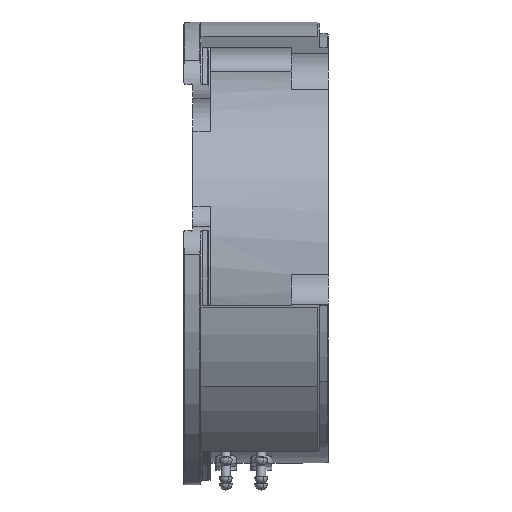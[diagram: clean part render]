
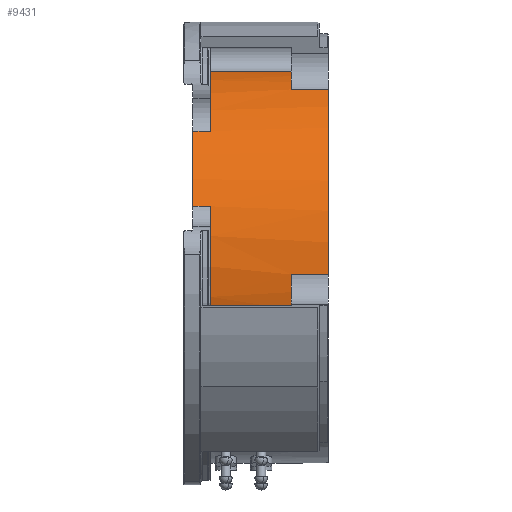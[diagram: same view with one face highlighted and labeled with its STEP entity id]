
A CAD part, left-side view. The second image highlights one B-rep face of the part: STEP entity #9431.
In plain terms, the highlighted cylindrical face has radius 21.717 mm (diameter 43.434 mm), a partial arc.
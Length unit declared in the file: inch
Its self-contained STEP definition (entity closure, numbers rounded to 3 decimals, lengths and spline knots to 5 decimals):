
#5 = CARTESIAN_POINT ( 'NONE',  ( -0.8162, 0.07, 0.25466 ) ) ;
#60 = CARTESIAN_POINT ( 'NONE',  ( 0., -0.005, 0. ) ) ;
#919 = CIRCLE ( 'NONE', #7984, 0.855 ) ;
#945 = AXIS2_PLACEMENT_3D ( 'NONE', #4354, #6052, #2363 ) ;
#1042 = ORIENTED_EDGE ( 'NONE', *, *, #11586, .T. ) ;
#1324 = DIRECTION ( 'NONE',  ( 0., 0., 1. ) ) ;
#1354 = CARTESIAN_POINT ( 'NONE',  ( -0.85407, -0.515, -0.03986 ) ) ;
#1616 = EDGE_CURVE ( 'NONE', #11551, #4889, #8483, .T. ) ;
#1842 = CIRCLE ( 'NONE', #10188, 0.855 ) ;
#1851 = EDGE_CURVE ( 'NONE', #3008, #9426, #919, .T. ) ;
#1963 = CIRCLE ( 'NONE', #7359, 0.855 ) ;
#2028 = CARTESIAN_POINT ( 'NONE',  ( -0.17776, -0.355, 0.83632 ) ) ;
#2034 = VERTEX_POINT ( 'NONE', #8794 ) ;
#2109 = CIRCLE ( 'NONE', #945, 0.855 ) ;
#2132 = CARTESIAN_POINT ( 'NONE',  ( -0.81315, -0.005, -0.26421 ) ) ;
#2359 = VERTEX_POINT ( 'NONE', #5 ) ;
#2363 = DIRECTION ( 'NONE',  ( -0.866, 0., 0.5 ) ) ;
#2461 = EDGE_CURVE ( 'NONE', #8476, #3008, #5400, .T. ) ;
#2773 = VERTEX_POINT ( 'NONE', #7118 ) ;
#2800 = DIRECTION ( 'NONE',  ( 0., 1., 0. ) ) ;
#2904 = VECTOR ( 'NONE', #8015, 39.37008 ) ;
#3008 = VERTEX_POINT ( 'NONE', #7851 ) ;
#3011 = VECTOR ( 'NONE', #10299, 39.37008 ) ;
#3252 = ORIENTED_EDGE ( 'NONE', *, *, #9387, .T. ) ;
#3528 = CARTESIAN_POINT ( 'NONE',  ( 0., 0., 0. ) ) ;
#3614 = CIRCLE ( 'NONE', #5009, 0.855 ) ;
#3892 = CARTESIAN_POINT ( 'NONE',  ( -0.39252, -0.355, 0.75958 ) ) ;
#3975 = LINE ( 'NONE', #8160, #10889 ) ;
#4156 = EDGE_LOOP ( 'NONE', ( #1042, #10710, #6530, #11948, #7266, #10350, #3252, #10890, #5273, #6222, #10919, #10567 ) ) ;
#4162 = FACE_OUTER_BOUND ( 'NONE', #4156, .T. ) ;
#4226 = EDGE_CURVE ( 'NONE', #11551, #2773, #3614, .T. ) ;
#4354 = CARTESIAN_POINT ( 'NONE',  ( 0., -0.515, 0. ) ) ;
#4468 = DIRECTION ( 'NONE',  ( 0., 1., 0. ) ) ;
#4560 = DIRECTION ( 'NONE',  ( -0.866, 0., 0.5 ) ) ;
#4603 = CARTESIAN_POINT ( 'NONE',  ( -0.62864, 0., 0.57952 ) ) ;
#4814 = VECTOR ( 'NONE', #9560, 39.37008 ) ;
#4868 = VECTOR ( 'NONE', #4468, 39.37008 ) ;
#4889 = VERTEX_POINT ( 'NONE', #2132 ) ;
#5009 = AXIS2_PLACEMENT_3D ( 'NONE', #8461, #2800, #7379 ) ;
#5027 = VERTEX_POINT ( 'NONE', #6393 ) ;
#5056 = EDGE_CURVE ( 'NONE', #9426, #10162, #5506, .T. ) ;
#5072 = DIRECTION ( 'NONE',  ( 0., -1., 0. ) ) ;
#5078 = CARTESIAN_POINT ( 'NONE',  ( -0.62864, -0.005, 0.57952 ) ) ;
#5273 = ORIENTED_EDGE ( 'NONE', *, *, #2461, .T. ) ;
#5400 = LINE ( 'NONE', #2028, #4814 ) ;
#5506 = LINE ( 'NONE', #4603, #3011 ) ;
#5545 = DIRECTION ( 'NONE',  ( 0., -1., 0. ) ) ;
#5974 = CARTESIAN_POINT ( 'NONE',  ( 0., -0.005, 0. ) ) ;
#6052 = DIRECTION ( 'NONE',  ( 0., -1., 0. ) ) ;
#6076 = EDGE_CURVE ( 'NONE', #8476, #10263, #1842, .T. ) ;
#6222 = ORIENTED_EDGE ( 'NONE', *, *, #1851, .T. ) ;
#6298 = DIRECTION ( 'NONE',  ( 0., 1., 0. ) ) ;
#6393 = CARTESIAN_POINT ( 'NONE',  ( -0.8162, -0.005, 0.25466 ) ) ;
#6530 = ORIENTED_EDGE ( 'NONE', *, *, #1616, .F. ) ;
#6698 = DIRECTION ( 'NONE',  ( 0.866, 0., 0.5 ) ) ;
#6916 = EDGE_CURVE ( 'NONE', #8606, #2773, #12196, .T. ) ;
#7049 = DIRECTION ( 'NONE',  ( 0., 1., 0. ) ) ;
#7118 = CARTESIAN_POINT ( 'NONE',  ( -0.85407, -0.355, -0.03986 ) ) ;
#7150 = CARTESIAN_POINT ( 'NONE',  ( -0.17776, -0.355, 0.83632 ) ) ;
#7260 = CYLINDRICAL_SURFACE ( 'NONE', #9046, 0.855 ) ;
#7266 = ORIENTED_EDGE ( 'NONE', *, *, #6916, .F. ) ;
#7329 = EDGE_CURVE ( 'NONE', #4889, #5027, #1963, .T. ) ;
#7359 = AXIS2_PLACEMENT_3D ( 'NONE', #5974, #11578, #9779 ) ;
#7379 = DIRECTION ( 'NONE',  ( -0.866, 0., 0.5 ) ) ;
#7565 = AXIS2_PLACEMENT_3D ( 'NONE', #9723, #5072, #1324 ) ;
#7632 = CARTESIAN_POINT ( 'NONE',  ( -0.85407, -0.515, -0.03986 ) ) ;
#7851 = CARTESIAN_POINT ( 'NONE',  ( -0.17776, -0.005, 0.83632 ) ) ;
#7882 = EDGE_CURVE ( 'NONE', #2034, #8606, #2109, .T. ) ;
#7984 = AXIS2_PLACEMENT_3D ( 'NONE', #60, #11327, #6698 ) ;
#8015 = DIRECTION ( 'NONE',  ( 0., 1., 0. ) ) ;
#8160 = CARTESIAN_POINT ( 'NONE',  ( -0.8162, 0., 0.25466 ) ) ;
#8299 = CARTESIAN_POINT ( 'NONE',  ( -0.81315, -0.355, -0.26421 ) ) ;
#8461 = CARTESIAN_POINT ( 'NONE',  ( 0., -0.355, 0. ) ) ;
#8476 = VERTEX_POINT ( 'NONE', #7150 ) ;
#8483 = LINE ( 'NONE', #8299, #8634 ) ;
#8606 = VERTEX_POINT ( 'NONE', #7632 ) ;
#8634 = VECTOR ( 'NONE', #7049, 39.37008 ) ;
#8794 = CARTESIAN_POINT ( 'NONE',  ( -0.39252, -0.515, 0.75958 ) ) ;
#8864 = DIRECTION ( 'NONE',  ( 0., 0., 1. ) ) ;
#9046 = AXIS2_PLACEMENT_3D ( 'NONE', #3528, #6298, #8864 ) ;
#9106 = DIRECTION ( 'NONE',  ( 0., -1., 0. ) ) ;
#9387 = EDGE_CURVE ( 'NONE', #2034, #10263, #10191, .T. ) ;
#9426 = VERTEX_POINT ( 'NONE', #5078 ) ;
#9431 = ADVANCED_FACE ( 'NONE', ( #4162 ), #7260, .T. ) ;
#9560 = DIRECTION ( 'NONE',  ( 0., 1., 0. ) ) ;
#9666 = CARTESIAN_POINT ( 'NONE',  ( -0.62864, 0.07, 0.57952 ) ) ;
#9723 = CARTESIAN_POINT ( 'NONE',  ( 0., 0.07, 0. ) ) ;
#9779 = DIRECTION ( 'NONE',  ( 0., 0., 1. ) ) ;
#10162 = VERTEX_POINT ( 'NONE', #9666 ) ;
#10188 = AXIS2_PLACEMENT_3D ( 'NONE', #11323, #5545, #4560 ) ;
#10191 = LINE ( 'NONE', #11979, #4868 ) ;
#10263 = VERTEX_POINT ( 'NONE', #3892 ) ;
#10299 = DIRECTION ( 'NONE',  ( 0., 1., 0. ) ) ;
#10350 = ORIENTED_EDGE ( 'NONE', *, *, #7882, .F. ) ;
#10567 = ORIENTED_EDGE ( 'NONE', *, *, #11910, .T. ) ;
#10710 = ORIENTED_EDGE ( 'NONE', *, *, #7329, .F. ) ;
#10889 = VECTOR ( 'NONE', #9106, 39.37008 ) ;
#10890 = ORIENTED_EDGE ( 'NONE', *, *, #6076, .F. ) ;
#10919 = ORIENTED_EDGE ( 'NONE', *, *, #5056, .T. ) ;
#11059 = CARTESIAN_POINT ( 'NONE',  ( -0.81315, -0.355, -0.26421 ) ) ;
#11323 = CARTESIAN_POINT ( 'NONE',  ( 0., -0.355, 0. ) ) ;
#11327 = DIRECTION ( 'NONE',  ( 0., -1., 0. ) ) ;
#11551 = VERTEX_POINT ( 'NONE', #11059 ) ;
#11578 = DIRECTION ( 'NONE',  ( 0., 1., 0. ) ) ;
#11586 = EDGE_CURVE ( 'NONE', #2359, #5027, #3975, .T. ) ;
#11772 = CIRCLE ( 'NONE', #7565, 0.855 ) ;
#11910 = EDGE_CURVE ( 'NONE', #10162, #2359, #11772, .T. ) ;
#11948 = ORIENTED_EDGE ( 'NONE', *, *, #4226, .T. ) ;
#11979 = CARTESIAN_POINT ( 'NONE',  ( -0.39252, -0.515, 0.75958 ) ) ;
#12196 = LINE ( 'NONE', #1354, #2904 ) ;
